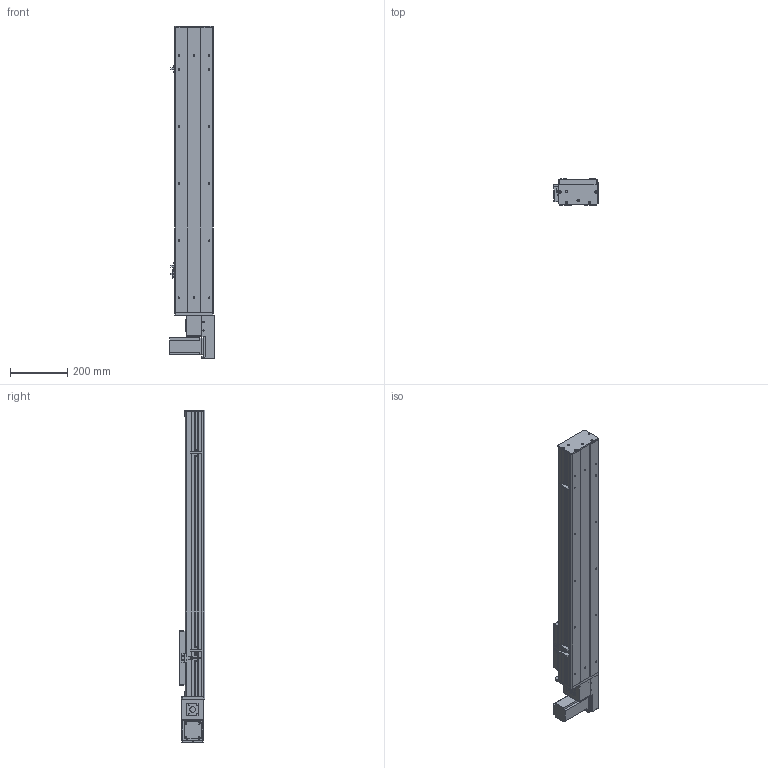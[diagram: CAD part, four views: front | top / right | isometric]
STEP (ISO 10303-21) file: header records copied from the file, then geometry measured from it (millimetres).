
FILE_DESCRIPTION (( 'STEP AP203' ), '1' );
FILE_NAME ('Y135CB-D90-S700-BL-P400W.STEP', '2020-02-17T08:33:27', ( '微软用户' ), ( '微软中国' ), 'SwSTEP 2.0', 'SolidWorks 2017', '' );
FILE_SCHEMA (( 'CONFIG_CONTROL_DESIGN' ));
Length unit declared in the file: millimetre
Products named in the file (18): C-雄赽釱--; 0B-萇儂楊擘啣; Y135CB-耜裔; Y135CB-D90-S700-BL-P400W; san松下电机400不带刹车----; 135CB---遴掛极.-; 5CB --掛极耜裔啣-; 35CB---喘謫眊楊擘啣; C-詩湍揤踡え-陔; Y10B--々湍喘謫眊--666; 135CB--詩湍-CE; Y10B-耜蚾蟀諉啣----; Y100-135俋离換覜ん--; Y俋欶BR----; Y135C-陔俋离換覜結え-; 0B-埴倛裔啣; 5C--俋欶; 0B-源倛裔啣
Assembly tree (21 placements, depth 2):
  Y135CB-D90-S700-BL-P400W
    Y135CB-耜裔
    135CB---遴掛极.-
    35CB---喘謫眊楊擘啣
    Y10B--々湍喘謫眊--666
    Y10B-耜蚾蟀諉啣----
    Y俋欶BR----
    0B-埴倛裔啣
    0B-源倛裔啣
    0B-萇儂楊擘啣
    san松下电机400不带刹车----
    5CB --掛极耜裔啣-  x2
    C-詩湍揤踡え-陔  x2
    135CB--詩湍-CE
    Y100-135俋离換覜ん--  x3
    Y135C-陔俋离換覜結え-
    5C--俋欶
    C-雄赽釱--
Bounding box: 157.5 x 91 x 1164.5 mm (x, y, z)
Volume: 3608115.1 mm3; surface area: 1404620.6 mm2
Topology: 21 solids, 21 shells, 941 faces, 2509 edges, 1662 vertices
Faces by surface type: cylinder 467, plane 458, cone 16
Entity records: 29139 total; most frequent: DIRECTION 4837, CARTESIAN_POINT 4768, ORIENTED_EDGE 4494, EDGE_CURVE 2247, AXIS2_PLACEMENT_3D 1759, VERTEX_POINT 1490, VECTOR 1319, LINE 1319
